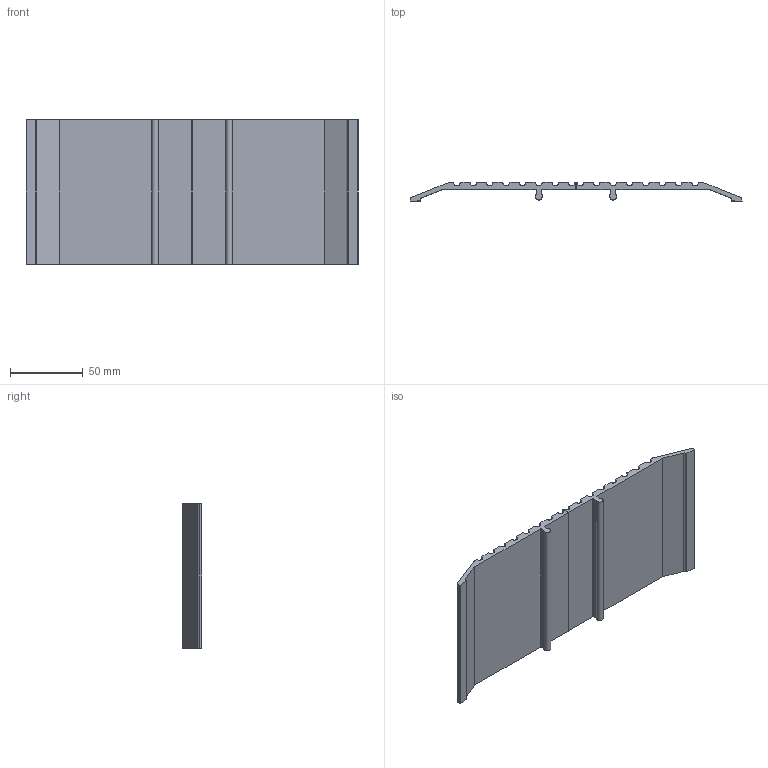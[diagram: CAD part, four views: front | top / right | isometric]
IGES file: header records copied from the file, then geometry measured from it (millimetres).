
Global section: file name: No Iges File Name specified; native system: Autodesk Inventor 2012; preprocessor: AutoDesk Inventor Iges Exporter R2012; author: anna.b; date: 20130731.091149; units: millimetre
Bounding box: 228.97 x 13.46 x 100 mm (x, y, z)
Volume: 98086.7 mm3; surface area: 57333 mm2
Topology: 2 solids, 2 shells, 112 faces, 324 edges, 216 vertices
Faces by surface type: plane 42, cylinder 42, revolution 28
